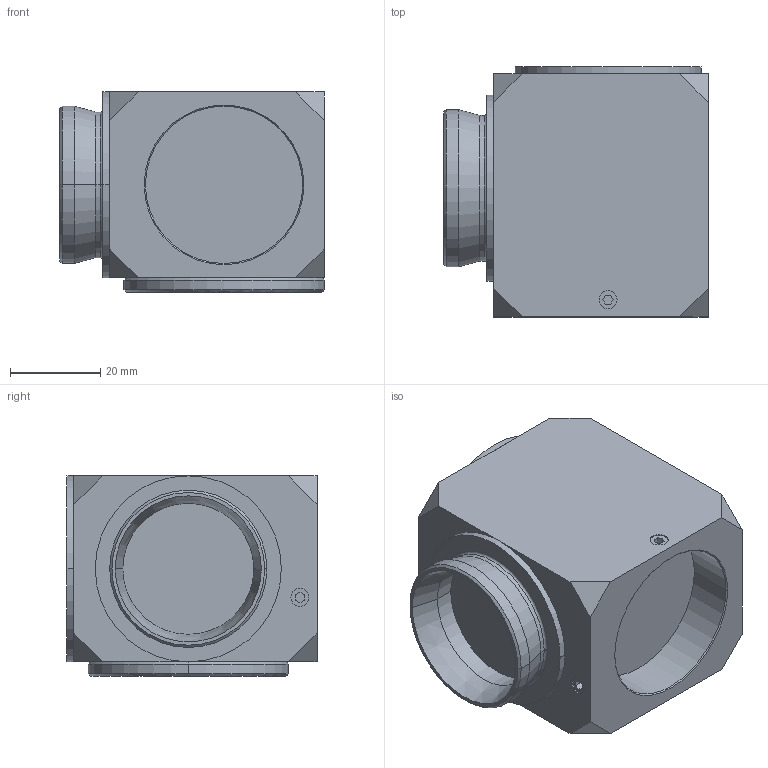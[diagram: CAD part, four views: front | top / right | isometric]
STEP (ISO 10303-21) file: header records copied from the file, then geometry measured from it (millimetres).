
FILE_DESCRIPTION (( 'STEP AP214' ), '1' );
FILE_NAME ('35-07-00-000 OUTLINE.STEP', '2012-11-15T21:30:21', ( '' ), ( '' ), 'SwSTEP 2.0', 'SolidWorks 2011', '' );
FILE_SCHEMA (( 'AUTOMOTIVE_DESIGN' ));
Length unit declared in the file: millimetre
Products named in the file (1): 35-07-00-000 OUTLINE
Bounding box: 58.67 x 55.5 x 44.45 mm (x, y, z)
Volume: 106098.4 mm3; surface area: 17353.4 mm2
Topology: 1 solids, 1 shells, 113 faces, 274 edges, 176 vertices
Faces by surface type: plane 70, cylinder 29, cone 12, torus 2
Entity records: 4254 total; most frequent: CARTESIAN_POINT 588, DIRECTION 574, ORIENTED_EDGE 548, EDGE_CURVE 274, AXIS2_PLACEMENT_3D 194, VECTOR 186, LINE 186, VERTEX_POINT 176
